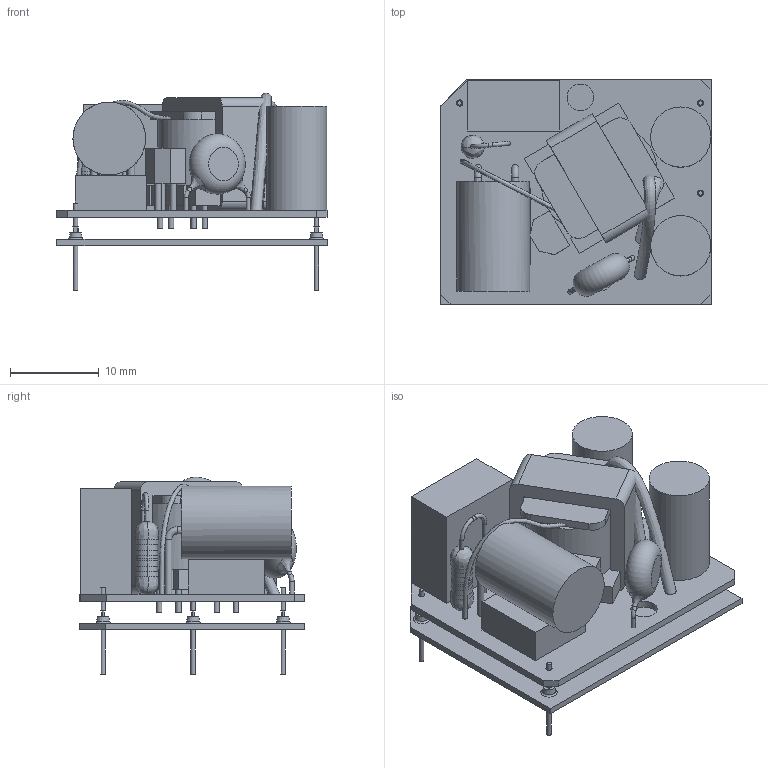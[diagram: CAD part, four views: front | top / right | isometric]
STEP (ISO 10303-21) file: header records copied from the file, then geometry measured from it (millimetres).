
FILE_DESCRIPTION (( 'STEP AP214' ), '1' );
FILE_NAME ('VCE05-P.STEP', '2017-02-06T18:25:04', ( '' ), ( '' ), 'SwSTEP 2.0', 'SolidWorks 2017', '' );
FILE_SCHEMA (( 'AUTOMOTIVE_DESIGN' ));
Length unit declared in the file: inch
Products named in the file (9): TX1; C1; VCE05 BASE PIN d0.5x9.8mm; VCE05USXX-P BASE; VCE05-P; VCE05USXX-P BASE+PIN; R1; TO-92A; VCE05 PCB(01)
Assembly tree (11 placements, depth 3):
  VCE05-P
    R1
    VCE05USXX-P BASE+PIN
      VCE05 BASE PIN d0.5x9.8mm  x4
      VCE05USXX-P BASE
    VCE05 PCB(01)
    TX1
    C1
    TO-92A
Bounding box: 30.49 x 25.4 x 22.3 mm (x, y, z)
Volume: 5495.6 mm3; surface area: 6625.4 mm2
Topology: 11 solids, 11 shells, 454 faces, 1089 edges, 675 vertices
Faces by surface type: plane 273, cylinder 135, bspline 27, torus 11, cone 8
Full cylindrical faces by diameter (mm): 0.45 x3, 0.5 x20, 0.6 x14, 0.7 x3, 0.701 x4, 0.798 x4, 3.002 x2, 6.8 x2, 8.2 x1
Entity records: 10912 total; most frequent: CARTESIAN_POINT 2979, DIRECTION 1337, ORIENTED_EDGE 1208, EDGE_CURVE 604, AXIS2_PLACEMENT_3D 495, VERTEX_POINT 413, EDGE_LOOP 403, VECTOR 347
